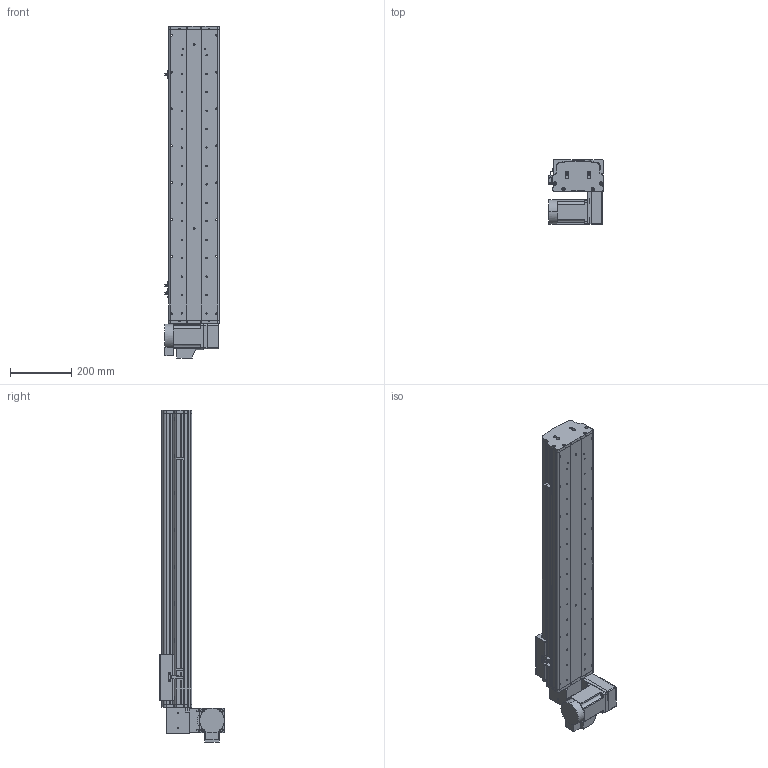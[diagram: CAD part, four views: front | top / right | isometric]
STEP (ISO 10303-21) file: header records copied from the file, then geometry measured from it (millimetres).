
FILE_DESCRIPTION (( 'STEP AP214' ), '1' );
FILE_NAME ('KSD165B-S700-MRD-CM.STEP', '2017-10-16T09:26:23', ( '微软用户' ), ( '微软中国' ), 'SwSTEP 2.0', 'SolidWorks 2014', '' );
FILE_SCHEMA (( 'AUTOMOTIVE_DESIGN' ));
Length unit declared in the file: millimetre
Products named in the file (17): KSD165模组-同步带滑动座-最新版; KSD165B-S700-MRD-CM; 130宽模组马达安装板连板上下折丝杆同步带; 130宽模组保护罩上下左右折-同步带; HTPA26S5M250-A-H8 750W萇儂蚚; HTPA26S5M250-A-H8 400W萇儂蚚 ; KSD165模组-同步带防尘盖1-700行程-最新版; KSD165模组同步带底板-700行程-最新; 拸秶雄ん750W侜督萇儂; 165宽马达安装板同步带右; U倰嫖萇假蚾璃; U倰嫖萇EEㄜSX672; 覜茼え68遵圉猾敕; KSD165模组-同步带-防撞垫2; KSD165模组同步带-防撞垫1; KSD165耀郪-ヶ傷啣1-肮祭湍; KSD165模组-后端板1-同步带
Assembly tree (20 placements, depth 2):
  KSD165B-S700-MRD-CM
    KSD165模组-同步带滑动座-最新版
    KSD165模组-后端板1-同步带
    KSD165耀郪-ヶ傷啣1-肮祭湍
    KSD165模组同步带-防撞垫1
    KSD165模组-同步带-防撞垫2
    覜茼え68遵圉猾敕
    U倰嫖萇EEㄜSX672  x3
    U倰嫖萇假蚾璃  x3
    165宽马达安装板同步带右
    拸秶雄ん750W侜督萇儂
    KSD165模组同步带底板-700行程-最新
    KSD165模组-同步带防尘盖1-700行程-最新版
    HTPA26S5M250-A-H8 400W萇儂蚚 
    HTPA26S5M250-A-H8 750W萇儂蚚
    130宽模组保护罩上下左右折-同步带
    130宽模组马达安装板连板上下折丝杆同步带
Bounding box: 178.7 x 210 x 1080.5 mm (x, y, z)
Volume: 6565414 mm3; surface area: 1520772.2 mm2
Topology: 21 solids, 21 shells, 1925 faces, 5430 edges, 3544 vertices
Faces by surface type: cylinder 1231, plane 582, cone 112
Entity records: 62204 total; most frequent: CARTESIAN_POINT 12736, DIRECTION 10250, ORIENTED_EDGE 9520, EDGE_CURVE 4760, AXIS2_PLACEMENT_3D 4016, VERTEX_POINT 3136, CIRCLE 2288, VECTOR 2218
